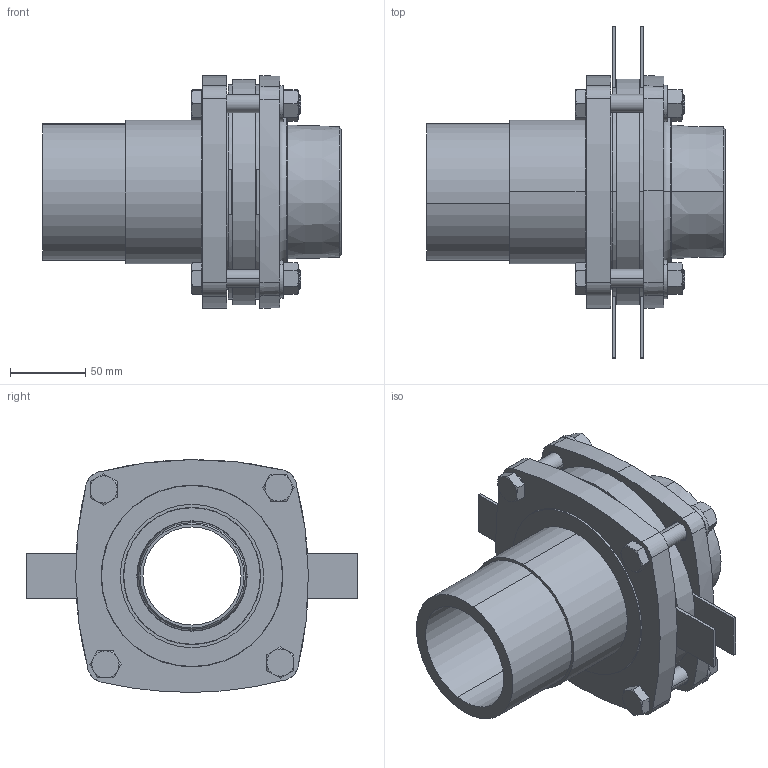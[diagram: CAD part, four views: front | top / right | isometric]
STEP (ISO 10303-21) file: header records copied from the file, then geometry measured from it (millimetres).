
FILE_DESCRIPTION (( 'STEP AP203' ), '1' );
FILE_NAME ('KP_C16-90M.step', '2011-08-08T12:01:35', ( '' ), ( '' ), 'SwSTEP 2.0', 'SolidWorks 2011', '' );
FILE_SCHEMA (( 'CONFIG_CONTROL_DESIGN' ));
Length unit declared in the file: millimetre
Products named in the file (1): KP_C16-90M
Bounding box: 198 x 220 x 154.3 mm (x, y, z)
Volume: 1147919.8 mm3; surface area: 266379.1 mm2
Topology: 1 solids, 1 shells, 380 faces, 845 edges, 508 vertices
Faces by surface type: plane 143, cone 114, cylinder 101, torus 22
Entity records: 10944 total; most frequent: CARTESIAN_POINT 2294, DIRECTION 1929, ORIENTED_EDGE 1690, EDGE_CURVE 845, AXIS2_PLACEMENT_3D 799, VERTEX_POINT 508, EDGE_LOOP 431, CIRCLE 418
